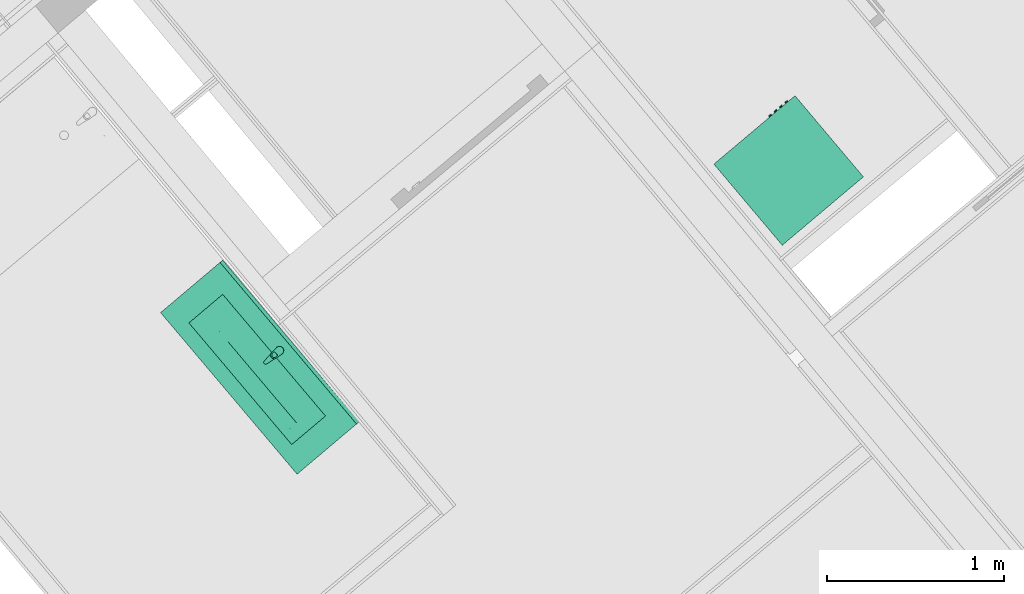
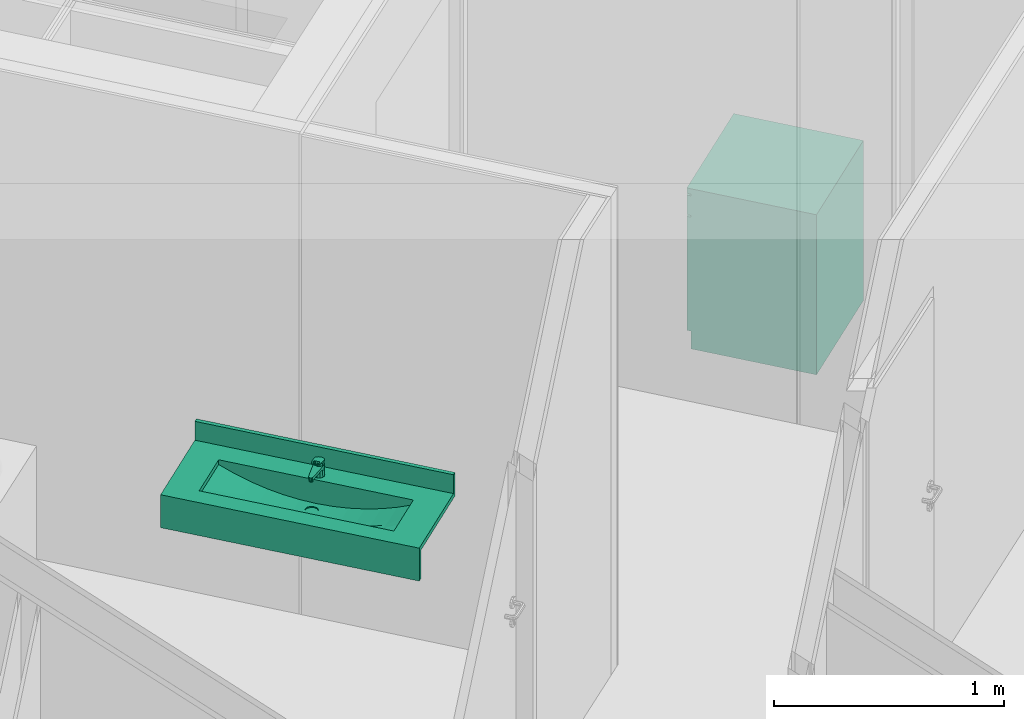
# One storey, part 46 of 50: 2 sanitary terminals.
"""IFC4 building model written with IfcOpenShell, lengths in metres."""

from ifc_helpers import new_model, entity, si_unit, converted_unit, derived_unit, direction, frame, origin_with_axes, place, context, subcontext, project, spatial, polygons, source, transform, mapped, type_object, element, save


model = new_model("IFC4")

# Units and contexts
model_context = context("Model", 3, precision=1e-05, world=origin_with_axes(), true_north=direction((0.0, 1.0)))
body_context = subcontext(model_context, "Body", "Model", "MODEL_VIEW")
ifc_project = project(units=[si_unit("LENGTHUNIT", "METRE"), si_unit("AREAUNIT", "SQUARE_METRE"), si_unit("VOLUMEUNIT", "CUBIC_METRE"), converted_unit("PLANEANGLEUNIT", "DEGREE", entity("IfcPlaneAngleMeasure", 0.0174532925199), si_unit("PLANEANGLEUNIT", "RADIAN"), dimensions=[0, 0, 0, 0, 0, 0, 0]), converted_unit("TIMEUNIT", "Year", entity("IfcTimeMeasure", 31556926.0), si_unit("TIMEUNIT", "SECOND"), dimensions=[0, 0, 1, 0, 0, 0, 0]), si_unit("MASSUNIT", "GRAM", prefix="KILO"), si_unit("THERMODYNAMICTEMPERATUREUNIT", "DEGREE_CELSIUS"), si_unit("LUMINOUSINTENSITYUNIT", "LUMEN"), si_unit("ENERGYUNIT", "JOULE", prefix="MEGA"), derived_unit("THERMALCONDUCTANCEUNIT", [(si_unit("POWERUNIT", "WATT"), 1), (si_unit("LENGTHUNIT", "METRE"), -1), (si_unit("THERMODYNAMICTEMPERATUREUNIT", "KELVIN"), -1)]), derived_unit("SPECIFICHEATCAPACITYUNIT", [(si_unit("ENERGYUNIT", "JOULE"), 1), (si_unit("MASSUNIT", "GRAM", prefix="KILO"), -1), (si_unit("THERMODYNAMICTEMPERATUREUNIT", "KELVIN"), -1)]), derived_unit("MASSDENSITYUNIT", [(si_unit("MASSUNIT", "GRAM", prefix="KILO"), 1), (si_unit("VOLUMEUNIT", "CUBIC_METRE"), -1)])], contexts=[model_context])

# Site, building, storey
site_placement = place(None, frame((-0.00153261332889, -0.00661245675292, 0.0), z_axis=(0.0, 0.0, 1.0), x_axis=(1.0, 0.0, 0.0)))
site = spatial("IfcSite", under=ifc_project, at=site_placement, Name="Site", CompositionType="ELEMENT")
building_placement = place(site_placement, origin_with_axes())
building = spatial("IfcBuilding", under=site, at=building_placement, Name="Building", CompositionType="ELEMENT")
storey_placement = place(building_placement, frame((0.0, 0.0, 2.74), z_axis=(0.0, 0.0, 1.0), x_axis=(1.0, 0.0, 0.0)))
storey = spatial("IfcBuildingStorey", under=building, at=storey_placement, Name="OG1", CompositionType="ELEMENT", Elevation=2.74)

# Sanitary terminals
sanitary_terminal_type_1 = type_object("IfcSanitaryTerminalType", Name="Waschbecken mehrfach 26", PredefinedType="NOTDEFINED")
shared_shape_1 = source(origin_with_axes(), body_context, "Body", "Tessellation", [
    polygons([(-0.597906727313, 0.0, 0.875), (0.597906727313, 0.0, 0.875), (0.597906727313, -0.459810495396, 0.875), (-0.597906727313, -0.459810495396, 0.875), (-0.45, -0.374905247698, 0.875), (0.45, -0.374905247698, 0.875), (0.45, -0.124905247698, 0.875), (-0.45, -0.124905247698, 0.875), (-0.597906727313, 0.0, 0.9), (0.597906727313, 0.0, 0.9), (0.597906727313, -0.459810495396, 0.9), (-0.597906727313, -0.459810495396, 0.9), (-0.45, -0.374905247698, 0.9), (0.45, -0.374905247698, 0.9), (0.45, -0.124905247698, 0.9), (-0.45, -0.124905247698, 0.9)], [[[1, 2, 3, 4], [5, 6, 7, 8]], [[1, 9, 10, 2]], [[2, 10, 11, 3]], [[3, 11, 12, 4]], [[4, 12, 9, 1]], [[13, 14, 6, 5]], [[14, 15, 7, 6]], [[15, 16, 8, 7]], [[16, 13, 5, 8]], [[11, 10, 9, 12], [13, 16, 15, 14]]], closed=True),
    polygons([(-0.597906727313, -0.02, 0.9), (0.597906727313, -0.02, 0.9), (0.597906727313, -0.02, 1.0), (-0.597906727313, -0.02, 1.0), (-0.597906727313, 0.0, 0.9), (0.597906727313, 0.0, 0.9), (0.597906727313, 0.0, 1.0), (-0.597906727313, 0.0, 1.0)], [[[1, 2, 3, 4]], [[1, 5, 6, 2]], [[2, 6, 7, 3]], [[4, 3, 7, 8]], [[5, 1, 4, 8]], [[6, 5, 8, 7]]], closed=True),
    polygons([(-0.597906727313, -0.459810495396, 0.725), (0.597906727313, -0.459810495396, 0.725), (0.597906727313, -0.459810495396, 0.875), (-0.597906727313, -0.459810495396, 0.875), (-0.597906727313, -0.434810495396, 0.725), (0.597906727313, -0.434810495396, 0.725), (0.597906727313, -0.434810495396, 0.875), (-0.597906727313, -0.434810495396, 0.875)], [[[1, 2, 3, 4]], [[1, 5, 6, 2]], [[2, 6, 7, 3]], [[4, 3, 7, 8]], [[5, 1, 4, 8]], [[6, 5, 8, 7]]], closed=True),
    polygons([(0.0, -0.210896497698, 0.775), (-0.015, -0.206877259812, 0.775530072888), (-0.0259807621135, -0.195896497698, 0.775918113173), (-0.03, -0.180896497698, 0.776060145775), (-0.0283946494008, -0.174905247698, 0.776003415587), (-0.075, -0.174905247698, 0.777650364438), (-0.075, -0.224905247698, 0.777650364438), (0.0, -0.224905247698, 0.775), (-0.015, -0.154915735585, 0.775530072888), (0.0, -0.150896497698, 0.775), (0.0, -0.124905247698, 0.775), (-0.075, -0.124905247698, 0.777650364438), (-0.0259807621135, -0.165896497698, 0.775918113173), (-0.15, -0.174905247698, 0.785641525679), (-0.15, -0.224905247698, 0.785641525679), (-0.075, -0.274905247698, 0.787304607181), (0.075, -0.174905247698, 0.777650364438), (0.0283946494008, -0.174905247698, 0.776003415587), (0.03, -0.180896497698, 0.776060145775), (0.0259807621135, -0.195896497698, 0.775918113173), (0.015, -0.206877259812, 0.775530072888), (0.075, -0.224905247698, 0.777650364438), (0.015, -0.154915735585, 0.775530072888), (0.0259807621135, -0.165896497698, 0.775918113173), (0.075, -0.124905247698, 0.777650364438), (0.225, -0.124905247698, 0.799096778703), (0.3, -0.124905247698, 0.818232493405), (0.375, -0.124905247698, 0.843376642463), (0.45, -0.124905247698, 0.875), (-0.45, -0.124905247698, 0.875), (-0.375, -0.124905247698, 0.843376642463), (-0.3, -0.124905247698, 0.818232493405), (-0.225, -0.124905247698, 0.799096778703), (-0.15, -0.124905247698, 0.785641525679), (0.15, -0.124905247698, 0.785641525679), (-0.225, -0.174905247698, 0.799096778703), (-0.225, -0.224905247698, 0.799096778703), (-0.15, -0.274905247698, 0.794561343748), (0.0, -0.274905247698, 0.784895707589), (0.15, -0.224905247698, 0.785641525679), (0.15, -0.174905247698, 0.785641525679), (0.3, -0.174905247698, 0.818232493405), (0.225, -0.174905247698, 0.799096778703), (0.375, -0.174905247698, 0.843376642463), (0.45, -0.174905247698, 0.875), (-0.375, -0.174905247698, 0.843376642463), (-0.45, -0.174905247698, 0.875), (-0.3, -0.174905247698, 0.818232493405), (-0.3, -0.224905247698, 0.818232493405), (-0.225, -0.274905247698, 0.80675793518), (-0.075, -0.324905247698, 0.828130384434), (-0.15, -0.324905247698, 0.832107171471), (0.075, -0.274905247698, 0.787304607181), (0.225, -0.224905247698, 0.799096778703), (0.3, -0.224905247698, 0.818232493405), (0.375, -0.224905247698, 0.843376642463), (0.45, -0.224905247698, 0.875), (0.45, -0.274905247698, 0.875), (0.45, -0.324905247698, 0.875), (0.45, -0.374905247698, 0.875), (-0.45, -0.274905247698, 0.875), (-0.45, -0.224905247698, 0.875), (-0.45, -0.374905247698, 0.875), (-0.45, -0.324905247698, 0.875), (-0.375, -0.224905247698, 0.843376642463), (-0.3, -0.274905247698, 0.824054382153), (-0.225, -0.324905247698, 0.838751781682), (0.0, -0.324905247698, 0.826806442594), (0.15, -0.274905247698, 0.794561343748), (0.225, -0.274905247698, 0.80675793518), (0.3, -0.274905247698, 0.824054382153), (0.375, -0.274905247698, 0.846689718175), (0.375, -0.324905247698, 0.860156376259), (0.375, -0.374905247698, 0.875), (-0.375, -0.324905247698, 0.860156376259), (-0.375, -0.274905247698, 0.846689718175), (-0.3, -0.324905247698, 0.848089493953), (-0.075, -0.374905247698, 0.875), (-0.15, -0.374905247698, 0.875), (-0.225, -0.374905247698, 0.875), (0.075, -0.324905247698, 0.828130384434), (-0.3, -0.374905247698, 0.875), (-0.375, -0.374905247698, 0.875), (0.3, -0.374905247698, 0.875), (0.225, -0.374905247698, 0.875), (0.15, -0.374905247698, 0.875), (0.075, -0.374905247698, 0.875), (0.0, -0.374905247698, 0.875), (0.15, -0.324905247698, 0.832107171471), (0.225, -0.324905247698, 0.838751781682), (0.3, -0.324905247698, 0.848089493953)], [[[1, 2, 3, 4, 5, 6, 7, 8]], [[9, 10, 11, 12, 6, 5, 13]], [[7, 6, 14, 15]], [[16, 8, 7]], [[17, 18, 19, 20, 21, 1, 8, 22]], [[10, 23, 24, 18, 17, 25, 11]], [[26, 27, 28, 29, 30, 31, 32, 33, 34, 12, 11, 25, 35]], [[6, 12, 34, 14]], [[15, 14, 36, 37]], [[38, 7, 15]], [[16, 39, 8]], [[38, 16, 7]], [[39, 22, 8]], [[40, 41, 17, 22]], [[41, 35, 25, 17]], [[42, 27, 26, 43]], [[44, 28, 27, 42]], [[45, 29, 28, 44]], [[46, 31, 30, 47]], [[48, 32, 31, 46]], [[36, 33, 32, 48]], [[14, 34, 33, 36]], [[43, 26, 35, 41]], [[37, 36, 48, 49]], [[50, 15, 37]], [[50, 38, 15]], [[51, 39, 16]], [[52, 16, 38]], [[39, 53, 22]], [[54, 43, 41, 40]], [[53, 40, 22]], [[55, 42, 43, 54]], [[56, 44, 42, 55]], [[57, 58, 59, 60, 29, 45]], [[57, 45, 44, 56]], [[61, 62, 47, 30, 63, 64]], [[65, 46, 47, 62]], [[49, 48, 46, 65]], [[66, 37, 49]], [[66, 50, 37]], [[67, 38, 50]], [[51, 68, 39]], [[52, 51, 16]], [[67, 52, 38]], [[68, 53, 39]], [[69, 54, 40]], [[53, 69, 40]], [[70, 55, 54]], [[71, 56, 55]], [[72, 58, 57]], [[73, 59, 58]], [[74, 60, 59]], [[72, 57, 56]], [[61, 65, 62]], [[63, 75, 64]], [[64, 76, 61]], [[76, 49, 65]], [[76, 66, 49]], [[77, 50, 66]], [[77, 67, 50]], [[78, 68, 51]], [[79, 51, 52]], [[80, 52, 67]], [[68, 81, 53]], [[69, 70, 54]], [[81, 69, 53]], [[70, 71, 55]], [[71, 72, 56]], [[73, 58, 72]], [[74, 59, 73]], [[80, 82, 83, 63, 60, 74, 84, 85, 86, 87, 88, 78, 79]], [[61, 76, 65]], [[63, 83, 75]], [[64, 75, 76]], [[75, 66, 76]], [[75, 77, 66]], [[82, 67, 77]], [[78, 88, 68]], [[79, 78, 51]], [[80, 79, 52]], [[82, 80, 67]], [[88, 81, 68]], [[89, 70, 69]], [[81, 89, 69]], [[90, 71, 70]], [[91, 72, 71]], [[91, 73, 72]], [[84, 74, 73]], [[83, 82, 77]], [[85, 84, 91]], [[86, 85, 90]], [[87, 86, 89]], [[88, 87, 81]], [[83, 77, 75]], [[89, 90, 70]], [[87, 89, 81]], [[90, 91, 71]], [[84, 73, 91]], [[85, 91, 90]], [[86, 90, 89]]], closed=False),
    polygons([(0.03, -0.180896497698, 0.776060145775), (0.0259807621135, -0.195896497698, 0.775918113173), (0.0259807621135, -0.195896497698, 0.77), (0.03, -0.180896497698, 0.77), (0.015, -0.206877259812, 0.775530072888), (0.015, -0.206877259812, 0.77), (0.0, -0.150896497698, 0.77), (0.015, -0.154915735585, 0.77), (0.0259807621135, -0.165896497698, 0.77), (0.0, -0.210896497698, 0.77), (-0.015, -0.206877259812, 0.77), (-0.0259807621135, -0.195896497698, 0.77), (-0.03, -0.180896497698, 0.77), (-0.0259807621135, -0.165896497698, 0.77), (-0.015, -0.154915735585, 0.77), (0.0259807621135, -0.165896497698, 0.775918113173), (0.0, -0.210896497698, 0.775), (0.0, -0.150896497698, 0.775), (0.015, -0.154915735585, 0.775530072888), (-0.015, -0.206877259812, 0.775530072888), (-0.0259807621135, -0.195896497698, 0.775918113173), (-0.03, -0.180896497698, 0.776060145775), (-0.0259807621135, -0.165896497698, 0.775918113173), (-0.015, -0.154915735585, 0.775530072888)], [[[1, 2, 3, 4]], [[2, 5, 6, 3]], [[7, 8, 9, 4, 3, 6, 10, 11, 12, 13, 14, 15]], [[16, 1, 4, 9]], [[5, 17, 10, 6]], [[18, 19, 8, 7]], [[19, 16, 9, 8]], [[17, 20, 11, 10]], [[20, 21, 12, 11]], [[21, 22, 13, 12]], [[22, 23, 14, 13]], [[23, 24, 15, 14]], [[24, 18, 7, 15]]], closed=False),
    polygons([(0.0125, -0.0632546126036, 0.9), (0.0, -0.0599052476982, 0.9), (0.0, -0.0637033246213, 0.975961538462), (0.0105873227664, -0.0665674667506, 0.976507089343), (0.0216506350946, -0.0724052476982, 0.9), (0.025, -0.0849052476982, 0.9), (0.0216506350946, -0.0974052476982, 0.9), (0.0125, -0.106555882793, 0.9), (0.0, -0.109905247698, 0.9), (-0.0125, -0.106555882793, 0.9), (-0.0216506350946, -0.0974052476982, 0.9), (-0.025, -0.0849052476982, 0.9), (-0.0216506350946, -0.0724052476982, 0.9), (-0.0125, -0.0632546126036, 0.9), (-0.0105873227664, -0.0665674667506, 0.976507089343), (-0.0182735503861, -0.0743550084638, 0.977990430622), (-0.021, -0.0849052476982, 0.98), (-0.0181003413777, -0.095355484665, 0.981990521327), (-0.0104141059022, -0.102943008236, 0.983435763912), (0.0, -0.105707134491, 0.983962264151), (0.0104141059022, -0.102943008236, 0.983435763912), (0.0181003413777, -0.095355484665, 0.981990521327), (0.021, -0.0849052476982, 0.98), (0.0182735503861, -0.0743550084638, 0.977990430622)], [[[1, 2, 3, 4]], [[1, 5, 6, 7, 8, 9, 10, 11, 12, 13, 14, 2]], [[2, 14, 15, 3]], [[4, 3, 15, 16, 17, 18, 19, 20, 21, 22, 23, 24]], [[5, 1, 4, 24]], [[6, 5, 24, 23]], [[7, 6, 23, 22]], [[8, 7, 22, 21]], [[9, 8, 21, 20]], [[10, 9, 20, 19]], [[11, 10, 19, 18]], [[12, 11, 18, 17]], [[13, 12, 17, 16]], [[14, 13, 16, 15]]], closed=True),
    polygons([(0.009, -0.187905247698, 0.935), (0.00779422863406, -0.183405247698, 0.935), (0.00779422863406, -0.183405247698, 0.945), (0.009, -0.187905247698, 0.945), (0.00779422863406, -0.192405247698, 0.935), (0.0045, -0.195699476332, 0.935), (0.0, -0.196905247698, 0.935), (-0.0045, -0.195699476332, 0.935), (-0.00779422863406, -0.192405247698, 0.935), (-0.009, -0.187905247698, 0.935), (-0.00779422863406, -0.183405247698, 0.935), (-0.0045, -0.180111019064, 0.935), (0.0, -0.178905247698, 0.935), (0.0045, -0.180111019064, 0.935), (0.0045, -0.180111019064, 0.945), (0.0, -0.178905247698, 0.945), (-0.0045, -0.180111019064, 0.945), (-0.00779422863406, -0.183405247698, 0.945), (-0.009, -0.187905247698, 0.945), (-0.00779422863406, -0.192405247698, 0.945), (-0.0045, -0.195699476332, 0.945), (0.0, -0.196905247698, 0.945), (0.0045, -0.195699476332, 0.945), (0.00779422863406, -0.192405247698, 0.945)], [[[1, 2, 3, 4]], [[1, 5, 6, 7, 8, 9, 10, 11, 12, 13, 14, 2]], [[2, 14, 15, 3]], [[4, 3, 15, 16, 17, 18, 19, 20, 21, 22, 23, 24]], [[5, 1, 4, 24]], [[6, 5, 24, 23]], [[7, 6, 23, 22]], [[8, 7, 22, 21]], [[9, 8, 21, 20]], [[10, 9, 20, 19]], [[11, 10, 19, 18]], [[12, 11, 18, 17]], [[13, 12, 17, 16]], [[14, 13, 16, 15]]], closed=True),
    polygons([(-0.0128717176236, -0.0646489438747, 0.96), (-0.021727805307, -0.0747120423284, 0.96), (-0.0238054, -0.0879551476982, 0.96), (-0.010911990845, -0.189293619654, 0.96), (-0.00902887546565, -0.194188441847, 0.96), (-0.00509332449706, -0.197654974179, 0.96), (3.62679860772e-08, -0.198905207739, 0.96), (0.00509338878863, -0.197654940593, 0.96), (0.00902891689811, -0.194188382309, 0.96), (0.010912, -0.189293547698, 0.96), (0.0238053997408, -0.0879551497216, 0.96), (0.0217278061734, -0.0747120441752, 0.96), (0.0128717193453, -0.0646489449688, 0.96), (1.01998896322e-09, -0.0609052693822, 0.96), (0.011, -0.0658526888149, 0.96), (0.0190525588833, -0.0739052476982, 0.96), (0.022, -0.0849052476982, 0.96), (0.0190525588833, -0.0959052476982, 0.96), (0.011, -0.103957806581, 0.96), (0.0, -0.106905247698, 0.96), (-0.011, -0.103957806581, 0.96), (-0.0190525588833, -0.0959052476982, 0.96), (-0.022, -0.0849052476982, 0.96), (-0.0190525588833, -0.0739052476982, 0.96), (-0.011, -0.0658526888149, 0.96), (0.0, -0.0629052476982, 0.96), (-0.021727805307, -0.0747120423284, 0.945), (-0.0128717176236, -0.0646489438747, 0.945), (-0.0238054, -0.0879551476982, 0.945), (-0.010911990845, -0.189293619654, 0.945), (-0.00902887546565, -0.194188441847, 0.945), (-0.00509332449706, -0.197654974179, 0.945), (3.62679860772e-08, -0.198905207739, 0.945), (0.00509338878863, -0.197654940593, 0.945), (0.00902891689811, -0.194188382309, 0.945), (0.010912, -0.189293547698, 0.945), (0.0238053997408, -0.0879551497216, 0.945), (0.0217278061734, -0.0747120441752, 0.945), (0.0128717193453, -0.0646489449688, 0.945), (1.01998896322e-09, -0.0609052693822, 0.945), (0.011375, -0.0652031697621, 0.945), (0.0197020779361, -0.0735302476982, 0.945), (0.02275, -0.0849052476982, 0.945), (0.0197020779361, -0.0962802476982, 0.945), (0.011375, -0.104607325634, 0.945), (0.0, -0.107655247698, 0.945), (-0.011375, -0.104607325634, 0.945), (-0.0197020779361, -0.0962802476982, 0.945), (-0.02275, -0.0849052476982, 0.945), (-0.0197020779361, -0.0735302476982, 0.945), (-0.011375, -0.0652031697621, 0.945), (0.0, -0.0621552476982, 0.945)], [[[1, 2, 3, 4, 5, 6, 7, 8, 9, 10, 11, 12, 13, 14], [15, 16, 17, 18, 19, 20, 21, 22, 23, 24, 25, 26]], [[27, 2, 1, 28]], [[29, 3, 2, 27]], [[30, 4, 3, 29]], [[31, 5, 4, 30]], [[32, 6, 5, 31]], [[33, 7, 6, 32]], [[34, 8, 7, 33]], [[35, 9, 8, 34]], [[36, 10, 9, 35]], [[37, 11, 10, 36]], [[38, 12, 11, 37]], [[39, 13, 12, 38]], [[40, 14, 13, 39]], [[28, 1, 14, 40]], [[41, 42, 16, 15]], [[42, 43, 17, 16]], [[43, 44, 18, 17]], [[44, 45, 19, 18]], [[45, 46, 20, 19]], [[21, 20, 46, 47]], [[22, 21, 47, 48]], [[23, 22, 48, 49]], [[24, 23, 49, 50]], [[25, 24, 50, 51]], [[51, 52, 26, 25]], [[52, 41, 15, 26]], [[33, 32, 31, 30, 29, 27, 28, 40, 39, 38, 37, 36, 35, 34], [45, 44, 43, 42, 41, 52, 51, 50, 49, 48, 47, 46]]], closed=True),
    polygons([(0.023893, -0.0865978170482, 0.980322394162), (0.0212964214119, -0.0741305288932, 0.977947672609), (0.0212964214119, -0.0733820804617, 0.981877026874), (0.023893, -0.0858493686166, 0.984251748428), (0.0209459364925, -0.126741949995, 0.987968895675), (0.0176631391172, -0.13641961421, 0.989812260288), (0.0100614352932, -0.14336899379, 0.991135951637), (-4.42652908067e-07, -0.145890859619, 0.991616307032), (-0.0100622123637, -0.143368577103, 0.991135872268), (-0.0176636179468, -0.136418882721, 0.989812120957), (-0.020946, -0.126741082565, 0.987968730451), (-0.023893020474, -0.0865975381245, 0.980322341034), (-0.0212962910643, -0.0741302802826, 0.977947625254), (-0.0124716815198, -0.0648140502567, 0.976173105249), (1.42337785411e-07, -0.0613732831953, 0.975517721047), (0.0124719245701, -0.0648141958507, 0.976173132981), (0.014, -0.110446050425, 0.984864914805), (-0.014, -0.110446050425, 0.984864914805), (-0.014, -0.125261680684, 0.987686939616), (-0.012124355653, -0.132138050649, 0.988996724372), (-0.007, -0.137171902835, 0.989955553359), (0.0, -0.139014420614, 0.990306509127), (0.007, -0.137171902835, 0.989955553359), (0.012124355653, -0.132138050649, 0.988996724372), (0.014, -0.125261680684, 0.987686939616), (0.0124719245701, -0.0640657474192, 0.980102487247), (1.42337785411e-07, -0.0606248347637, 0.979447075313), (-0.0124716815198, -0.0640656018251, 0.980102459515), (-0.0212962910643, -0.073381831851, 0.98187697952), (-0.023893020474, -0.085849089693, 0.984251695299), (-0.020946, -0.125992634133, 0.991898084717), (-0.0176636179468, -0.13567043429, 0.993741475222), (-0.0100622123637, -0.142620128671, 0.995065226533), (-4.42652908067e-07, -0.145142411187, 0.995545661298), (0.0100614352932, -0.142620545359, 0.995065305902), (0.0176631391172, -0.135671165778, 0.993741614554), (0.0209459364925, -0.125993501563, 0.991898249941), (0.014, -0.109697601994, 0.988794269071), (0.014, -0.124513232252, 0.991616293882), (0.012124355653, -0.131389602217, 0.992926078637), (0.007, -0.136423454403, 0.993884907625), (0.0, -0.138265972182, 0.994235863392), (-0.007, -0.136423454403, 0.993884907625), (-0.012124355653, -0.131389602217, 0.992926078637), (-0.014, -0.124513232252, 0.991616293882), (-0.014, -0.109697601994, 0.988794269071)], [[[1, 2, 3, 4]], [[1, 5, 6, 7, 8, 9, 10, 11, 12, 13, 14, 15, 16, 2], [17, 18, 19, 20, 21, 22, 23, 24, 25]], [[2, 16, 26, 3]], [[4, 3, 26, 27, 28, 29, 30, 31, 32, 33, 34, 35, 36, 37], [38, 39, 40, 41, 42, 43, 44, 45, 46]], [[5, 1, 4, 37]], [[6, 5, 37, 36]], [[7, 6, 36, 35]], [[8, 7, 35, 34]], [[9, 8, 34, 33]], [[10, 9, 33, 32]], [[11, 10, 32, 31]], [[12, 11, 31, 30]], [[13, 12, 30, 29]], [[14, 13, 29, 28]], [[15, 14, 28, 27]], [[16, 15, 27, 26]], [[18, 17, 38, 46]], [[19, 18, 46, 45]], [[20, 19, 45, 44]], [[21, 20, 44, 43]], [[22, 21, 43, 42]], [[23, 22, 42, 41]], [[24, 23, 41, 40]], [[25, 24, 40, 39]], [[17, 25, 39, 38]]], closed=True),
])
sanitary_terminal_1_placement = place(storey_placement, frame((1.68758457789, 20.7054443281, 0.145), z_axis=(0.0, 0.0, 1.0), x_axis=(0.64539838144, -0.763846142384, 0.0)))
element("IfcSanitaryTerminal", 1, at=sanitary_terminal_1_placement, inside=storey, type_object=sanitary_terminal_type_1, Name="Objekt-0009", PredefinedType="NOTDEFINED", context=body_context, shape_type="MappedRepresentation", body=[
    mapped(shared_shape_1, transform((0.0, 0.0, 0.0))),
])
sanitary_terminal_type_2 = type_object("IfcSanitaryTerminalType", Name="Waschmaschine 01 26", PredefinedType="NOTDEFINED")
shared_shape_2 = source(origin_with_axes(), body_context, "Body", "Tessellation", [
    polygons([(-0.3, -0.58, 0.0944444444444), (0.3, -0.58, 0.0944444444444), (0.3, -0.6, 0.0944444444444), (-0.3, -0.6, 0.0944444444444), (-0.3, -0.58, 0.698888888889), (0.3, -0.58, 0.698888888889), (0.17, -0.58, 0.396666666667), (0.147224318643, -0.58, 0.481666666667), (0.085, -0.58, 0.54389098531), (0.0, -0.58, 0.566666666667), (-0.085, -0.58, 0.54389098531), (-0.147224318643, -0.58, 0.481666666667), (-0.17, -0.58, 0.396666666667), (-0.147224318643, -0.58, 0.311666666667), (-0.085, -0.58, 0.249442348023), (0.0, -0.58, 0.226666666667), (0.085, -0.58, 0.249442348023), (0.147224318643, -0.58, 0.311666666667), (0.3, -0.6, 0.698888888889), (-0.3, -0.6, 0.698888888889), (0.17, -0.6, 0.396666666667), (0.147224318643, -0.6, 0.311666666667), (0.085, -0.6, 0.249442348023), (0.0, -0.6, 0.226666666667), (-0.085, -0.6, 0.249442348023), (-0.147224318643, -0.6, 0.311666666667), (-0.17, -0.6, 0.396666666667), (-0.147224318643, -0.6, 0.481666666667), (-0.085, -0.6, 0.54389098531), (0.0, -0.6, 0.566666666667), (0.085, -0.6, 0.54389098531), (0.147224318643, -0.6, 0.481666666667)], [[[1, 2, 3, 4]], [[1, 5, 6, 2], [7, 8, 9, 10, 11, 12, 13, 14, 15, 16, 17, 18]], [[2, 6, 19, 3]], [[4, 3, 19, 20], [21, 22, 23, 24, 25, 26, 27, 28, 29, 30, 31, 32]], [[5, 1, 4, 20]], [[6, 5, 20, 19]], [[8, 7, 21, 32]], [[9, 8, 32, 31]], [[10, 9, 31, 30]], [[11, 10, 30, 29]], [[12, 11, 29, 28]], [[13, 12, 28, 27]], [[14, 13, 27, 26]], [[15, 14, 26, 25]], [[16, 15, 25, 24]], [[17, 16, 24, 23]], [[18, 17, 23, 22]], [[7, 18, 22, 21]]], closed=True),
    polygons([(0.17, -0.56, 0.396666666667), (0.147224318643, -0.56, 0.481666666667), (0.147224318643, -0.58, 0.481666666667), (0.17, -0.58, 0.396666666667), (0.147224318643, -0.56, 0.311666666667), (0.085, -0.56, 0.249442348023), (0.0, -0.56, 0.226666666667), (-0.085, -0.56, 0.249442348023), (-0.147224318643, -0.56, 0.311666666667), (-0.17, -0.56, 0.396666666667), (-0.147224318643, -0.56, 0.481666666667), (-0.085, -0.56, 0.54389098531), (0.0, -0.56, 0.566666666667), (0.085, -0.56, 0.54389098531), (0.136, -0.56, 0.396666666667), (0.117779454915, -0.56, 0.464666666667), (0.068, -0.56, 0.514446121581), (0.0, -0.56, 0.532666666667), (-0.068, -0.56, 0.514446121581), (-0.117779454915, -0.56, 0.464666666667), (-0.136, -0.56, 0.396666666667), (-0.117779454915, -0.56, 0.328666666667), (-0.068, -0.56, 0.278887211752), (0.0, -0.56, 0.260666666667), (0.068, -0.56, 0.278887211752), (0.117779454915, -0.56, 0.328666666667), (0.085, -0.58, 0.54389098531), (0.0, -0.58, 0.566666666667), (-0.085, -0.58, 0.54389098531), (-0.147224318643, -0.58, 0.481666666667), (-0.17, -0.58, 0.396666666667), (-0.147224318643, -0.58, 0.311666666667), (-0.085, -0.58, 0.249442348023), (0.0, -0.58, 0.226666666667), (0.085, -0.58, 0.249442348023), (0.147224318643, -0.58, 0.311666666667), (0.136, -0.58, 0.396666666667), (0.117779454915, -0.58, 0.328666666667), (0.068, -0.58, 0.278887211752), (0.0, -0.58, 0.260666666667), (-0.068, -0.58, 0.278887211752), (-0.117779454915, -0.58, 0.328666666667), (-0.136, -0.58, 0.396666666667), (-0.117779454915, -0.58, 0.464666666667), (-0.068, -0.58, 0.514446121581), (0.0, -0.58, 0.532666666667), (0.068, -0.58, 0.514446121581), (0.117779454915, -0.58, 0.464666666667)], [[[1, 2, 3, 4]], [[1, 5, 6, 7, 8, 9, 10, 11, 12, 13, 14, 2], [15, 16, 17, 18, 19, 20, 21, 22, 23, 24, 25, 26]], [[2, 14, 27, 3]], [[4, 3, 27, 28, 29, 30, 31, 32, 33, 34, 35, 36], [37, 38, 39, 40, 41, 42, 43, 44, 45, 46, 47, 48]], [[5, 1, 4, 36]], [[6, 5, 36, 35]], [[7, 6, 35, 34]], [[8, 7, 34, 33]], [[9, 8, 33, 32]], [[10, 9, 32, 31]], [[11, 10, 31, 30]], [[12, 11, 30, 29]], [[13, 12, 29, 28]], [[14, 13, 28, 27]], [[16, 15, 37, 48]], [[17, 16, 48, 47]], [[18, 17, 47, 46]], [[19, 18, 46, 45]], [[20, 19, 45, 44]], [[21, 20, 44, 43]], [[22, 21, 43, 42]], [[23, 22, 42, 41]], [[24, 23, 41, 40]], [[25, 24, 40, 39]], [[26, 25, 39, 38]], [[15, 26, 38, 37]]], closed=True),
    polygons([(-0.068, -0.56, 0.514446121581), (0.0, -0.56, 0.532666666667), (0.0, -0.46, 0.498666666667), (-0.051, -0.46, 0.485001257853), (0.068, -0.56, 0.514446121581), (0.051, -0.46, 0.485001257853), (0.088334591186, -0.46, 0.447666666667), (0.102, -0.46, 0.396666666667), (0.088334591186, -0.46, 0.345666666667), (0.051, -0.46, 0.308332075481), (0.0, -0.46, 0.294666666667), (-0.051, -0.46, 0.308332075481), (-0.088334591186, -0.46, 0.345666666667), (-0.102, -0.46, 0.396666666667), (-0.088334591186, -0.46, 0.447666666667), (-0.117779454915, -0.56, 0.464666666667), (0.117779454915, -0.56, 0.464666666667), (0.136, -0.56, 0.396666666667), (0.117779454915, -0.56, 0.328666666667), (0.068, -0.56, 0.278887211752), (0.0, -0.56, 0.260666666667), (-0.068, -0.56, 0.278887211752), (-0.117779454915, -0.56, 0.328666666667), (-0.136, -0.56, 0.396666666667)], [[[1, 2, 3, 4]], [[2, 5, 6, 3]], [[3, 6, 7, 8, 9, 10, 11, 12, 13, 14, 15, 4]], [[16, 1, 4, 15]], [[5, 17, 7, 6]], [[17, 18, 8, 7]], [[18, 19, 9, 8]], [[19, 20, 10, 9]], [[20, 21, 11, 10]], [[21, 22, 12, 11]], [[22, 23, 13, 12]], [[23, 24, 14, 13]], [[24, 16, 15, 14]]], closed=False),
    polygons([(-0.3, -0.58, 0.0944444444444), (-0.3, -0.58, 0.821666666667), (-0.3, 0.0, 0.821666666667), (-0.3, 0.0, 0.0944444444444)], [[[1, 2, 3, 4]]], closed=False),
    polygons([(0.3, -0.58, 0.0944444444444), (0.3, -0.58, 0.821666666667), (0.3, 0.0, 0.821666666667), (0.3, 0.0, 0.0944444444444)], [[[1, 2, 3, 4]]], closed=False),
    polygons([(-0.3, 0.0, 0.0944444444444), (-0.3, 0.0, 0.821666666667), (0.3, 0.0, 0.821666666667), (0.3, 0.0, 0.0944444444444)], [[[1, 2, 3, 4]]], closed=False),
    polygons([(-0.3, -0.58, 0.0), (0.3, -0.58, 0.0), (0.3, -0.58, 0.0944444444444), (-0.3, -0.58, 0.0944444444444), (-0.3, 0.0, 0.0), (0.3, 0.0, 0.0), (0.3, 0.0, 0.0944444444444), (-0.3, 0.0, 0.0944444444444)], [[[1, 2, 3, 4]], [[1, 5, 6, 2]], [[2, 6, 7, 3]], [[4, 3, 7, 8]], [[5, 1, 4, 8]], [[6, 5, 8, 7]]], closed=True),
    polygons([(-0.3, -0.58, 0.708333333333), (0.3, -0.58, 0.708333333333), (0.3, -0.6, 0.708333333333), (-0.3, -0.6, 0.708333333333), (-0.3, -0.58, 0.812222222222), (0.3, -0.58, 0.812222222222), (0.3, -0.6, 0.812222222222), (-0.3, -0.6, 0.812222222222)], [[[1, 2, 3, 4]], [[1, 5, 6, 2]], [[2, 6, 7, 3]], [[4, 3, 7, 8]], [[5, 1, 4, 8]], [[6, 5, 8, 7]]], closed=True),
    polygons([(-0.3, -0.58, 0.698888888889), (-0.3, -0.58, 0.821666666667), (0.3, -0.58, 0.821666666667), (0.3, -0.58, 0.698888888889)], [[[1, 2, 3, 4]]], closed=False),
    polygons([(-0.3, -0.6, 0.821666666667), (0.3, -0.6, 0.821666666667), (0.3, -0.6, 0.85), (-0.3, -0.6, 0.85), (-0.3, 0.0, 0.821666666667), (0.3, 0.0, 0.821666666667), (0.3, 0.0, 0.85), (-0.3, 0.0, 0.85)], [[[1, 2, 3, 4]], [[1, 5, 6, 2]], [[2, 6, 7, 3]], [[4, 3, 7, 8]], [[5, 1, 4, 8]], [[6, 5, 8, 7]]], closed=True),
    polygons([(-0.231339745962, -0.6, 0.76), (-0.235, -0.6, 0.756339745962), (-0.24, -0.6, 0.755), (-0.245, -0.6, 0.756339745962), (-0.248660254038, -0.6, 0.76), (-0.25, -0.6, 0.765), (-0.248660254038, -0.6, 0.77), (-0.245, -0.6, 0.773660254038), (-0.24, -0.6, 0.775), (-0.235, -0.6, 0.773660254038), (-0.231339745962, -0.6, 0.77), (-0.23, -0.6, 0.765), (-0.231339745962, -0.61, 0.76), (-0.235, -0.61, 0.756339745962), (-0.24, -0.61, 0.755), (-0.245, -0.61, 0.756339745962), (-0.248660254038, -0.61, 0.76), (-0.25, -0.61, 0.765), (-0.248660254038, -0.61, 0.77), (-0.245, -0.61, 0.773660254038), (-0.24, -0.61, 0.775), (-0.235, -0.61, 0.773660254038), (-0.231339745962, -0.61, 0.77), (-0.23, -0.61, 0.765)], [[[1, 2, 3, 4, 5, 6, 7, 8, 9, 10, 11, 12]], [[2, 1, 13, 14]], [[3, 2, 14, 15]], [[4, 3, 15, 16]], [[5, 4, 16, 17]], [[6, 5, 17, 18]], [[7, 6, 18, 19]], [[8, 7, 19, 20]], [[9, 8, 20, 21]], [[10, 9, 21, 22]], [[11, 10, 22, 23]], [[12, 11, 23, 24]], [[1, 12, 24, 13]], [[13, 24, 23, 22, 21, 20, 19, 18, 17, 16, 15, 14]]], closed=True),
    polygons([(-0.191339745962, -0.6, 0.76), (-0.195, -0.6, 0.756339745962), (-0.2, -0.6, 0.755), (-0.205, -0.6, 0.756339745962), (-0.208660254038, -0.6, 0.76), (-0.21, -0.6, 0.765), (-0.208660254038, -0.6, 0.77), (-0.205, -0.6, 0.773660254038), (-0.2, -0.6, 0.775), (-0.195, -0.6, 0.773660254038), (-0.191339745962, -0.6, 0.77), (-0.19, -0.6, 0.765), (-0.191339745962, -0.61, 0.76), (-0.195, -0.61, 0.756339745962), (-0.2, -0.61, 0.755), (-0.205, -0.61, 0.756339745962), (-0.208660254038, -0.61, 0.76), (-0.21, -0.61, 0.765), (-0.208660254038, -0.61, 0.77), (-0.205, -0.61, 0.773660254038), (-0.2, -0.61, 0.775), (-0.195, -0.61, 0.773660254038), (-0.191339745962, -0.61, 0.77), (-0.19, -0.61, 0.765)], [[[1, 2, 3, 4, 5, 6, 7, 8, 9, 10, 11, 12]], [[2, 1, 13, 14]], [[3, 2, 14, 15]], [[4, 3, 15, 16]], [[5, 4, 16, 17]], [[6, 5, 17, 18]], [[7, 6, 18, 19]], [[8, 7, 19, 20]], [[9, 8, 20, 21]], [[10, 9, 21, 22]], [[11, 10, 22, 23]], [[12, 11, 23, 24]], [[1, 12, 24, 13]], [[13, 24, 23, 22, 21, 20, 19, 18, 17, 16, 15, 14]]], closed=True),
    polygons([(-0.151339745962, -0.6, 0.76), (-0.155, -0.6, 0.756339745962), (-0.16, -0.6, 0.755), (-0.165, -0.6, 0.756339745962), (-0.168660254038, -0.6, 0.76), (-0.17, -0.6, 0.765), (-0.168660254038, -0.6, 0.77), (-0.165, -0.6, 0.773660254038), (-0.16, -0.6, 0.775), (-0.155, -0.6, 0.773660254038), (-0.151339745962, -0.6, 0.77), (-0.15, -0.6, 0.765), (-0.151339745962, -0.61, 0.76), (-0.155, -0.61, 0.756339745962), (-0.16, -0.61, 0.755), (-0.165, -0.61, 0.756339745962), (-0.168660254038, -0.61, 0.76), (-0.17, -0.61, 0.765), (-0.168660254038, -0.61, 0.77), (-0.165, -0.61, 0.773660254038), (-0.16, -0.61, 0.775), (-0.155, -0.61, 0.773660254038), (-0.151339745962, -0.61, 0.77), (-0.15, -0.61, 0.765)], [[[1, 2, 3, 4, 5, 6, 7, 8, 9, 10, 11, 12]], [[2, 1, 13, 14]], [[3, 2, 14, 15]], [[4, 3, 15, 16]], [[5, 4, 16, 17]], [[6, 5, 17, 18]], [[7, 6, 18, 19]], [[8, 7, 19, 20]], [[9, 8, 20, 21]], [[10, 9, 21, 22]], [[11, 10, 22, 23]], [[12, 11, 23, 24]], [[1, 12, 24, 13]], [[13, 24, 23, 22, 21, 20, 19, 18, 17, 16, 15, 14]]], closed=True),
    polygons([(-0.111339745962, -0.6, 0.76), (-0.115, -0.6, 0.756339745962), (-0.12, -0.6, 0.755), (-0.125, -0.6, 0.756339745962), (-0.128660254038, -0.6, 0.76), (-0.13, -0.6, 0.765), (-0.128660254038, -0.6, 0.77), (-0.125, -0.6, 0.773660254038), (-0.12, -0.6, 0.775), (-0.115, -0.6, 0.773660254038), (-0.111339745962, -0.6, 0.77), (-0.11, -0.6, 0.765), (-0.111339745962, -0.61, 0.76), (-0.115, -0.61, 0.756339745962), (-0.12, -0.61, 0.755), (-0.125, -0.61, 0.756339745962), (-0.128660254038, -0.61, 0.76), (-0.13, -0.61, 0.765), (-0.128660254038, -0.61, 0.77), (-0.125, -0.61, 0.773660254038), (-0.12, -0.61, 0.775), (-0.115, -0.61, 0.773660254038), (-0.111339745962, -0.61, 0.77), (-0.11, -0.61, 0.765)], [[[1, 2, 3, 4, 5, 6, 7, 8, 9, 10, 11, 12]], [[2, 1, 13, 14]], [[3, 2, 14, 15]], [[4, 3, 15, 16]], [[5, 4, 16, 17]], [[6, 5, 17, 18]], [[7, 6, 18, 19]], [[8, 7, 19, 20]], [[9, 8, 20, 21]], [[10, 9, 21, 22]], [[11, 10, 22, 23]], [[12, 11, 23, 24]], [[1, 12, 24, 13]], [[13, 24, 23, 22, 21, 20, 19, 18, 17, 16, 15, 14]]], closed=True),
])
sanitary_terminal_2_placement = place(storey_placement, frame((4.69390300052, 21.439428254, 0.22), z_axis=(0.0, 0.0, 1.0), x_axis=(-0.764561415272, -0.644550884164, 0.0)))
element("IfcSanitaryTerminal", 2, at=sanitary_terminal_2_placement, inside=storey, type_object=sanitary_terminal_type_2, Name="Objekt-0002", PredefinedType="NOTDEFINED", context=body_context, shape_type="MappedRepresentation", body=[
    mapped(shared_shape_2, transform((0.0, 0.0, 0.0))),
])

save(model, "model.ifc")
